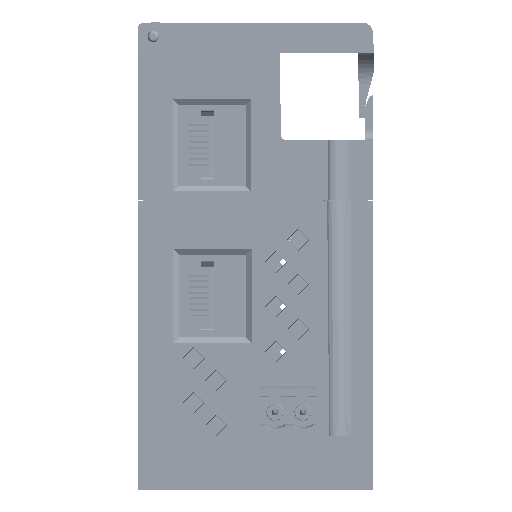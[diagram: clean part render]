
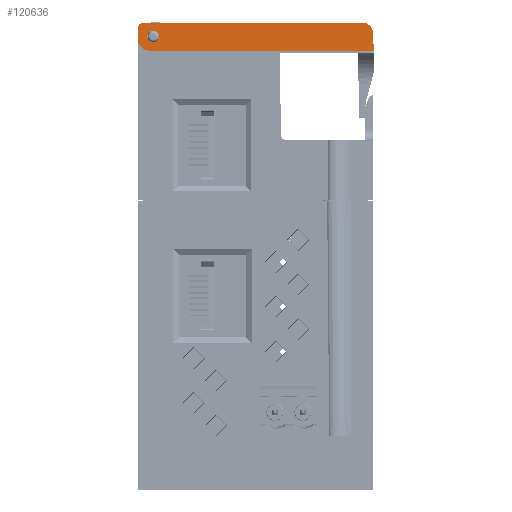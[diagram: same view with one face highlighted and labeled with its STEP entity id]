
A CAD part, front view. The second image highlights one B-rep face of the part: STEP entity #120636.
In plain terms, the highlighted planar face has unit normal (0, -1, 0.018) as drawn and (1, 0, -0.017) by its records, which use the part's own axes.
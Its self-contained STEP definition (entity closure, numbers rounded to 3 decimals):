
#120636=ADVANCED_FACE('',(#298823,#298825),#298827,.T.);
#298823=FACE_BOUND('',#298824,.T.);
#298824=EDGE_LOOP('',(#440131,#440132,#440133,#440134,#440135,#440136,#440137));
#298825=FACE_BOUND('',#298826,.T.);
#298826=EDGE_LOOP('',(#440138));
#298827=PLANE('',#298828);
#298828=AXIS2_PLACEMENT_3D('',#298829,#298830,#298831);
#298829=CARTESIAN_POINT('',(69.5,0.,5.));
#298830=DIRECTION('',(1.,0.,-0.017));
#298831=DIRECTION('',(-0.017,0.,-1.));
#440131=ORIENTED_EDGE('',*,*,#528847,.T.);
#440132=ORIENTED_EDGE('',*,*,#532018,.T.);
#440133=ORIENTED_EDGE('',*,*,#532020,.T.);
#440134=ORIENTED_EDGE('',*,*,#532021,.F.);
#440135=ORIENTED_EDGE('',*,*,#532022,.T.);
#440136=ORIENTED_EDGE('',*,*,#532023,.T.);
#440137=ORIENTED_EDGE('',*,*,#532024,.T.);
#440138=ORIENTED_EDGE('',*,*,#532025,.T.);
#528847=EDGE_CURVE('',#614888,#614886,#614889,.T.);
#532018=EDGE_CURVE('',#614886,#620419,#620420,.T.);
#532020=EDGE_CURVE('',#620419,#620422,#620423,.T.);
#532021=EDGE_CURVE('',#620424,#620422,#620425,.T.);
#532022=EDGE_CURVE('',#620424,#620426,#620427,.T.);
#532023=EDGE_CURVE('',#620426,#620428,#620429,.T.);
#532024=EDGE_CURVE('',#620428,#614888,#620430,.T.);
#532025=EDGE_CURVE('',#620431,#620431,#620432,.T.);
#614886=VERTEX_POINT('',#796113);
#614888=VERTEX_POINT('',#796117);
#614889=LINE('',#796118,#796119);
#620419=VERTEX_POINT('',#808002);
#620420=(BOUNDED_CURVE()B_SPLINE_CURVE(3,
(#808003,#808004,#808005,#808006),
.UNSPECIFIED.,.F.,.F.)B_SPLINE_CURVE_WITH_KNOTS((4,4),
(0.,1.),
.UNSPECIFIED.)CURVE()GEOMETRIC_REPRESENTATION_ITEM()RATIONAL_B_SPLINE_CURVE((1.,
0.809,0.809,1.))REPRESENTATION_ITEM(''));
#620422=VERTEX_POINT('',#808010);
#620423=LINE('',#808011,#808012);
#620424=VERTEX_POINT('',#808014);
#620425=(BOUNDED_CURVE()B_SPLINE_CURVE(3,
(#808015,#808016,#808017,#808018),
.UNSPECIFIED.,.F.,.F.)B_SPLINE_CURVE_WITH_KNOTS((4,4),
(0.,1.),
.UNSPECIFIED.)CURVE()GEOMETRIC_REPRESENTATION_ITEM()RATIONAL_B_SPLINE_CURVE((1.,
0.805,0.805,1.))REPRESENTATION_ITEM(''));
#620426=VERTEX_POINT('',#808019);
#620427=LINE('',#808020,#808021);
#620428=VERTEX_POINT('',#808023);
#620429=(BOUNDED_CURVE()B_SPLINE_CURVE(3,
(#808024,#808025,#808026,#808027),
.UNSPECIFIED.,.F.,.F.)B_SPLINE_CURVE_WITH_KNOTS((4,4),
(0.,1.),
.UNSPECIFIED.)CURVE()GEOMETRIC_REPRESENTATION_ITEM()RATIONAL_B_SPLINE_CURVE((1.,
0.805,0.805,1.))REPRESENTATION_ITEM(''));
#620430=LINE('',#808028,#808029);
#620431=VERTEX_POINT('',#808031);
#620432=(BOUNDED_CURVE()B_SPLINE_CURVE(3,
(#808032,#808033,#808034,#808035,#808036,#808037,#808038),
.UNSPECIFIED.,.T.,.F.)B_SPLINE_CURVE_WITH_KNOTS((4,3,4),
(0.,0.5,1.),
.UNSPECIFIED.)CURVE()GEOMETRIC_REPRESENTATION_ITEM()RATIONAL_B_SPLINE_CURVE((1.,
0.333,0.333,1.,0.333,0.333,1.))
REPRESENTATION_ITEM(''));
#796113=CARTESIAN_POINT('',(69.447,-27.784,1.965));
#796117=CARTESIAN_POINT('',(69.5,-27.837,5.));
#796118=CARTESIAN_POINT('',(69.5,-27.837,5.));
#796119=VECTOR('',#796120,1.);
#796120=DIRECTION('',(-0.017,0.017,-1.));
#808002=CARTESIAN_POINT('',(69.413,-25.785,0.));
#808003=CARTESIAN_POINT('',(69.447,-27.784,1.965));
#808004=CARTESIAN_POINT('',(69.427,-27.764,0.81));
#808005=CARTESIAN_POINT('',(69.413,-26.94,0.));
#808006=CARTESIAN_POINT('',(69.413,-25.785,0.));
#808010=CARTESIAN_POINT('',(69.413,13.25,0.));
#808011=CARTESIAN_POINT('',(69.413,-25.785,0.));
#808012=VECTOR('',#808013,1.);
#808013=DIRECTION('',(0.,1.,0.));
#808014=CARTESIAN_POINT('',(69.43,14.25,1.));
#808015=CARTESIAN_POINT('',(69.43,14.25,1.));
#808016=CARTESIAN_POINT('',(69.42,14.25,0.414));
#808017=CARTESIAN_POINT('',(69.413,13.836,0.));
#808018=CARTESIAN_POINT('',(69.413,13.25,0.));
#808019=CARTESIAN_POINT('',(69.465,14.25,3.));
#808020=CARTESIAN_POINT('',(69.43,14.25,1.));
#808021=VECTOR('',#808022,1.);
#808022=DIRECTION('',(0.017,0.,1.));
#808023=CARTESIAN_POINT('',(69.5,12.25,5.));
#808024=CARTESIAN_POINT('',(69.465,14.25,3.));
#808025=CARTESIAN_POINT('',(69.486,14.25,4.172));
#808026=CARTESIAN_POINT('',(69.5,13.422,5.));
#808027=CARTESIAN_POINT('',(69.5,12.25,5.));
#808028=CARTESIAN_POINT('',(69.5,12.25,5.));
#808029=VECTOR('',#808030,1.);
#808030=DIRECTION('',(0.,-1.,0.));
#808031=CARTESIAN_POINT('',(69.438,11.549,1.449));
#808032=CARTESIAN_POINT('',(69.438,11.549,1.449));
#808033=CARTESIAN_POINT('',(69.438,9.449,1.449));
#808034=CARTESIAN_POINT('',(69.475,9.449,3.549));
#808035=CARTESIAN_POINT('',(69.475,11.549,3.549));
#808036=CARTESIAN_POINT('',(69.475,13.649,3.549));
#808037=CARTESIAN_POINT('',(69.438,13.649,1.449));
#808038=CARTESIAN_POINT('',(69.438,11.549,1.449));
